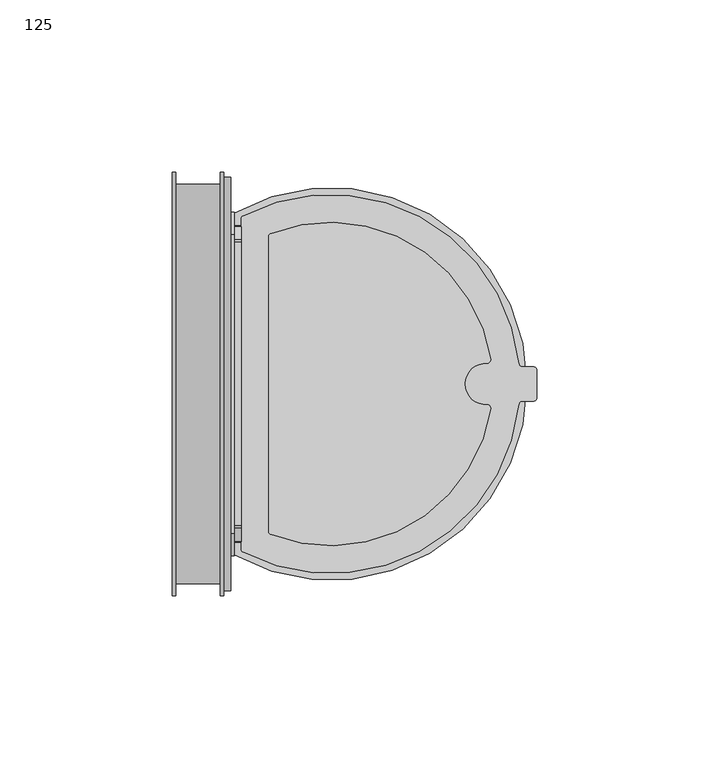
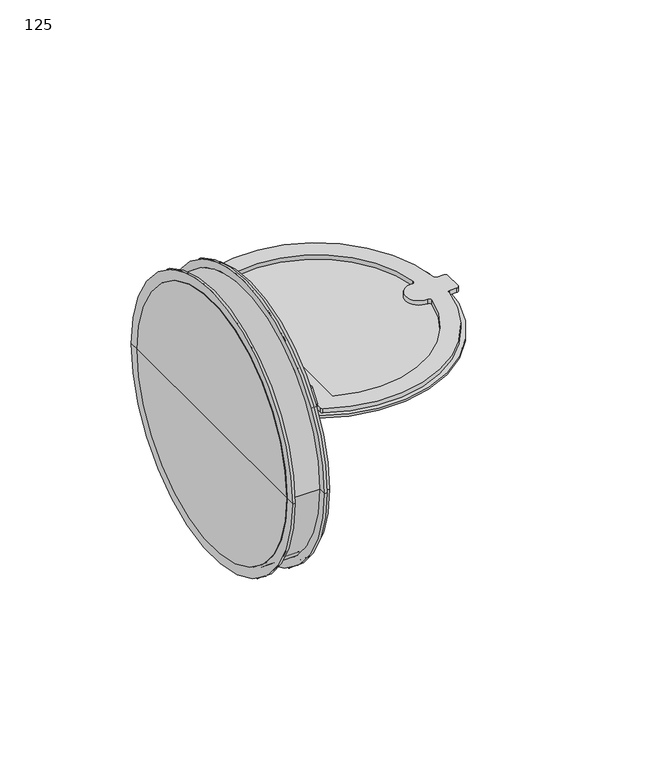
"""IFC4 building model written with IfcOpenShell, lengths in millimetres: damper geometry, VE-Przepustnica_Zwrotna-ParaForma-Harmann-FROGG : 125."""

import ifcopenshell
import ifcopenshell.guid

model = None  # the IFC model being written
_history = None  # IfcOwnerHistory: only IFC2X3 demands one
_inside = {}  # id of a spatial element -> (the spatial element, [elements in it])
_under = {}  # id of a project, library or spatial element -> (it, [spatial elements below it])
_declared = {}  # id of a project -> (the project, [libraries it declares])
_typed = {}  # id of a type object -> (the type object, [elements of that type])
_made_of = {}  # id of a material, layer set ... -> (it, [elements and type objects made of it])


def new_model(schema):
    """Start an empty IFC model of exactly this schema.

    Asked for "IFC4X3", IfcOpenShell would pick the latest addendum, in which some entities
    have other attributes; the version numbers below select the first issue.
    IFC2X3 requires an IfcOwnerHistory on every rooted entity: one is made here for all.
    """
    global model, _history
    if schema == "IFC4X3":
        model = ifcopenshell.file(schema_version=(4, 3, 0, 0))
    else:
        model = ifcopenshell.file(schema=schema)
    _inside.clear()
    _under.clear()
    _declared.clear()
    _typed.clear()
    _made_of.clear()
    _history = None
    if model.schema == "IFC2X3":
        org = make("IfcOrganization", Name="unknown")
        user = make(
            "IfcPersonAndOrganization",
            ThePerson=make("IfcPerson", FamilyName="unknown"),
            TheOrganization=org,
        )
        app = make(
            "IfcApplication",
            ApplicationDeveloper=org,
            Version="unknown",
            ApplicationFullName="unknown",
            ApplicationIdentifier="unknown",
        )
        _history = make(
            "IfcOwnerHistory",
            OwningUser=user,
            OwningApplication=app,
            ChangeAction="ADDED",
            CreationDate=0,
        )
    return model


def make(cls, **values):
    """One entity of the class cls with the attributes given. An attribute that is None is left unset."""
    return model.create_entity(
        cls, **{name: value for name, value in values.items() if value is not None}
    )


def rooted(cls, **values):
    """An entity with a GlobalId (a new one), such as an element, a storey or a relation."""
    return make(cls, GlobalId=ifcopenshell.guid.new(), OwnerHistory=_history, **values)


def si_unit(unit_type, name, prefix=None):
    """IfcSIUnit, for example si_unit("LENGTHUNIT", "METRE", prefix="MILLI")."""
    return make("IfcSIUnit", UnitType=unit_type, Prefix=prefix, Name=name)


def assignment(units):
    """IfcUnitAssignment: the units of a project."""
    return None if units is None else make("IfcUnitAssignment", Units=units)


def point(xyz):
    """IfcCartesianPoint."""
    return None if xyz is None else make("IfcCartesianPoint", Coordinates=xyz)


def direction(xyz):
    """IfcDirection."""
    return None if xyz is None else make("IfcDirection", DirectionRatios=xyz)


def frame(location, z_axis=None, x_axis=None):
    """IfcAxis2Placement3D, a coordinate frame: its origin and axes. An axis left out is left unset."""
    return make(
        "IfcAxis2Placement3D",
        Location=point(location),
        Axis=direction(z_axis),
        RefDirection=direction(x_axis),
    )


def frame_2d(location, x_axis=None):
    """IfcAxis2Placement2D, a coordinate frame in the plane: its origin and x axis."""
    return make(
        "IfcAxis2Placement2D", Location=point(location), RefDirection=direction(x_axis)
    )


def origin():
    """The frame at (0, 0, 0) with its axes left unset."""
    return frame((0.0, 0.0, 0.0))


def origin_2d():
    """The frame at (0, 0) in the plane with its x axis left unset."""
    return frame_2d((0.0, 0.0))


def place(relative_to, where):
    """IfcLocalPlacement: puts the frame where relative to a parent placement (None: the world)."""
    return make(
        "IfcLocalPlacement", PlacementRelTo=relative_to, RelativePlacement=where
    )


def context(
    kind, dimensions, precision=None, world=None, true_north=None, identifier=None
):
    """IfcGeometricRepresentationContext, for example the 3D "Model" context."""
    return make(
        "IfcGeometricRepresentationContext",
        ContextIdentifier=identifier,
        ContextType=kind,
        CoordinateSpaceDimension=dimensions,
        Precision=precision,
        WorldCoordinateSystem=world,
        TrueNorth=true_north,
    )


def project(units=None, contexts=None):
    """IfcProject with its units and contexts."""
    return rooted(
        "IfcProject",
        Name="project",
        RepresentationContexts=contexts,
        UnitsInContext=assignment(units),
    )


def spatial(cls, under=None, at=None, **own):
    """A site, building, storey or space (cls), placed at a placement, below another one or the project."""
    s = rooted(cls, ObjectPlacement=at, **own)
    if under is not None:
        _under.setdefault(under.id(), (under, []))[1].append(s)
    return s


def polyline(points):
    """IfcPolyline through the points."""
    return make("IfcPolyline", Points=[point(p) for p in points])


def circle_curve(where, radius):
    """IfcCircle in the frame where."""
    return make("IfcCircle", Position=where, Radius=radius)


def trimmed(basis, trim1, trim2, sense, master):
    """IfcTrimmedCurve: the piece of a basis curve between two trims."""
    return make(
        "IfcTrimmedCurve",
        BasisCurve=basis,
        Trim1=trim1,
        Trim2=trim2,
        SenseAgreement=sense,
        MasterRepresentation=master,
    )


def segment(curve, same_sense, transition):
    """IfcCompositeCurveSegment."""
    return make(
        "IfcCompositeCurveSegment",
        Transition=transition,
        SameSense=same_sense,
        ParentCurve=curve,
    )


def composite_curve(segments, self_intersect=None):
    """IfcCompositeCurve: segments joined end to end."""
    return make("IfcCompositeCurve", Segments=segments, SelfIntersect=self_intersect)


def outline(outer, holes=None, kind="AREA"):
    """IfcArbitraryClosedProfileDef: a profile drawn as a closed curve; with holes, ...WithVoids."""
    if holes is None:
        return make("IfcArbitraryClosedProfileDef", ProfileType=kind, OuterCurve=outer)
    return make(
        "IfcArbitraryProfileDefWithVoids",
        ProfileType=kind,
        OuterCurve=outer,
        InnerCurves=holes,
    )


def extrude(swept, where, along, depth):
    """IfcExtrudedAreaSolid: the profile swept, set in the frame where, extruded along a direction by depth."""
    return make(
        "IfcExtrudedAreaSolid",
        SweptArea=swept,
        Position=where,
        ExtrudedDirection=direction(along),
        Depth=depth,
    )


def shape(context_of_items, identifier, shape_type, items):
    """IfcShapeRepresentation: the items that make up one representation, for example the "Body"."""
    return make(
        "IfcShapeRepresentation",
        ContextOfItems=context_of_items,
        RepresentationIdentifier=identifier,
        RepresentationType=shape_type,
        Items=items,
    )


def source(mapping_origin, context_of_items, identifier, shape_type, items):
    """IfcRepresentationMap: a shape defined once, which mapped items show again and again."""
    return make(
        "IfcRepresentationMap",
        MappingOrigin=mapping_origin,
        MappedRepresentation=shape(context_of_items, identifier, shape_type, items),
    )


def transform(
    local_origin,
    x_axis=None,
    y_axis=None,
    z_axis=None,
    scale=None,
    scale2=None,
    scale3=None,
    uniform=True,
):
    """IfcCartesianTransformationOperator3D, or its non-uniform kind. x_axis, y_axis, z_axis: its Axis1, 2, 3."""
    if uniform:
        return make(
            "IfcCartesianTransformationOperator3D",
            Axis1=direction(x_axis),
            Axis2=direction(y_axis),
            LocalOrigin=point(local_origin),
            Scale=scale,
            Axis3=direction(z_axis),
        )
    return make(
        "IfcCartesianTransformationOperator3DnonUniform",
        Axis1=direction(x_axis),
        Axis2=direction(y_axis),
        LocalOrigin=point(local_origin),
        Scale=scale,
        Axis3=direction(z_axis),
        Scale2=scale2,
        Scale3=scale3,
    )


def mapped(mapping_source, mapping_target):
    """IfcMappedItem: shows the shape of a source again, moved by a transform."""
    return make(
        "IfcMappedItem", MappingSource=mapping_source, MappingTarget=mapping_target
    )


def made_of(thing, what):
    """Note that an element or type object is made of a material, layer set ...; save() writes the relation."""
    if what is not None:
        _made_of.setdefault(what.id(), (what, []))[1].append(thing)
    return thing


def element(
    cls,
    number,
    at=None,
    inside=None,
    cuts=None,
    type_object=None,
    material=None,
    context=None,
    identifier="Body",
    shape_type=None,
    held_by="IfcProductDefinitionShape",
    body=None,
    shapes=None,
    **own,
):
    """One element of the class cls, such as IfcWall. Its Tag is "e" and its number.

    at: its placement. inside: the storey or other place that contains it. cuts: it is an
    opening in that element (IfcRelVoidsElement). A single representation is given by context,
    identifier, shape_type and body (its items); several are given by shapes. held_by: the class
    of the entity that holds the representations. save() writes the other relations.
    """
    e = rooted(cls, Tag="e%d" % number, ObjectPlacement=at, **own)
    if body is not None:
        shapes = [shape(context, identifier, shape_type, body)]
    if shapes is not None:
        e.Representation = make(held_by, Representations=shapes)
    if inside is not None:
        _inside.setdefault(inside.id(), (inside, []))[1].append(e)
    if cuts is not None:
        rooted(
            "IfcRelVoidsElement", RelatingBuildingElement=cuts, RelatedOpeningElement=e
        )
    if type_object is not None:
        _typed.setdefault(type_object.id(), (type_object, []))[1].append(e)
    return made_of(e, material)


def aggregate(whole, parts):
    """IfcRelAggregates: a whole, such as a stair, and the parts it consists of."""
    return rooted("IfcRelAggregates", RelatingObject=whole, RelatedObjects=parts)


def save(model, path):
    """Write the relations noted so far, then the file.

    IfcRelAggregates (storeys below a building ...), IfcRelContainedInSpatialStructure (elements
    in a storey), IfcRelDefinesByType, IfcRelAssociatesMaterial and IfcRelDeclares: one each for
    every whole, place, type object, material and project.
    """
    for whole, parts in _under.values():
        aggregate(whole, parts)
    for where, things in _inside.values():
        rooted(
            "IfcRelContainedInSpatialStructure",
            RelatedElements=things,
            RelatingStructure=where,
        )
    for kind, things in _typed.values():
        rooted("IfcRelDefinesByType", RelatedObjects=things, RelatingType=kind)
    for what, things in _made_of.values():
        rooted("IfcRelAssociatesMaterial", RelatedObjects=things, RelatingMaterial=what)
    for by, libraries in _declared.values():
        rooted("IfcRelDeclares", RelatingContext=by, RelatedDefinitions=libraries)
    model.write(path)


def plane_surface(at):
    """IfcPlane: the flat surface through the origin of the frame at, square to its z axis."""
    return make("IfcPlane", Position=at)


def cylinder_surface(at, radius):
    """IfcCylindricalSurface: all points at the distance radius from the z axis of the frame at."""
    return make("IfcCylindricalSurface", Position=at, Radius=radius)


def revolved_surface(curve, axis_point, axis_direction):
    """IfcSurfaceOfRevolution: the curve turned about the line through axis_point along axis_direction."""
    return make(
        "IfcSurfaceOfRevolution",
        SweptCurve=make("IfcArbitraryOpenProfileDef", ProfileType="CURVE", Curve=curve),
        AxisPosition=make("IfcAxis1Placement", Location=point(axis_point), Axis=direction(axis_direction)),
    )


def advanced_brep(points, edges, surfaces, faces):
    """IfcAdvancedBrep: a solid bounded by faces that lie on surfaces and meet in shared edges.

    An edge is (start, end): straight between two places in points (the first is 0);
    or (start, end, curve); or (start, end, curve, False) where it runs against its curve.
    A face is (place in surfaces, loops), or (place, loops, False) where it looks against
    its surface's normal. A loop lists edges by number (the first is 1), with a minus sign
    where the edge is run from its end to its start. The first loop is the outer one.
    """
    corners = [point(p) for p in points]
    vertices = [make("IfcVertexPoint", VertexGeometry=c) for c in corners]
    made = []
    for start, end, *more in edges:
        made.append(
            make(
                "IfcEdgeCurve",
                EdgeStart=vertices[start],
                EdgeEnd=vertices[end],
                EdgeGeometry=more[0] if more else make("IfcPolyline", Points=[corners[start], corners[end]]),
                SameSense=more[1] if len(more) > 1 else True,
            )
        )
    hull = []
    for where, loops, *sense in faces:
        bounds = []
        for j, loop in enumerate(loops):
            ring = [make("IfcOrientedEdge", EdgeElement=made[abs(k) - 1], Orientation=k > 0) for k in loop]
            bounds.append(
                make(
                    "IfcFaceOuterBound" if j == 0 else "IfcFaceBound",
                    Bound=make("IfcEdgeLoop", EdgeList=ring),
                    Orientation=True,
                )
            )
        hull.append(make("IfcAdvancedFace", Bounds=bounds, FaceSurface=surfaces[where], SameSense=sense[0] if sense else True))
    return make("IfcAdvancedBrep", Outer=make("IfcClosedShell", CfsFaces=hull))


def damper_125_c1b41ca4(model_context):
    return source(origin(), model_context, "Body", "SolidModel", [
        extrude(outline(composite_curve([segment(trimmed(circle_curve(frame_2d((13.5, 47.8643918)), 1.0), [point((12.5, 47.8643918))], [point((13.037037, 48.7507694))], False, "CARTESIAN"), True, "CONTINUOUS"), segment(trimmed(circle_curve(frame_2d((38.5, 0.0)), 55.0), [point((13.037037, 48.7507694))], [point((93.1834, 5.8928571))], False, "CARTESIAN"), True, "CONTINUOUS"), segment(trimmed(circle_curve(frame_2d((94.1776436, 6.0)), 1.0), [point((93.1834, 5.8928571))], [point((94.1776436, 5.0))], True, "CARTESIAN"), True, "CONTINUOUS"), segment(polyline([(94.1776436, 5.0), (97.3642506, 5.0)]), True, "CONTINUOUS"), segment(trimmed(circle_curve(frame_2d((97.3642506, 4.0)), 1.0), [point((97.3642506, 5.0))], [point((98.3619498, 4.0677966))], False, "CARTESIAN"), True, "CONTINUOUS"), segment(trimmed(circle_curve(frame_2d((38.5, 0.0)), 60.0), [point((98.3619498, 4.0677966))], [point((98.3619498, -4.0677966))], False, "CARTESIAN"), True, "CONTINUOUS"), segment(trimmed(circle_curve(frame_2d((97.3642506, -4.0)), 1.0), [point((98.3619498, -4.0677966))], [point((97.3642506, -5.0))], False, "CARTESIAN"), True, "CONTINUOUS"), segment(polyline([(97.3642506, -5.0), (94.1776436, -5.0)]), True, "CONTINUOUS"), segment(trimmed(circle_curve(frame_2d((94.1776436, -6.0)), 1.0), [point((94.1776436, -5.0))], [point((93.1834, -5.8928571))], True, "CARTESIAN"), True, "CONTINUOUS"), segment(trimmed(circle_curve(frame_2d((38.5, 0.0)), 55.0), [point((93.1834, -5.8928571))], [point((13.037037, -48.7507694))], False, "CARTESIAN"), True, "CONTINUOUS"), segment(trimmed(circle_curve(frame_2d((13.5, -47.8643918)), 1.0), [point((13.037037, -48.7507694))], [point((12.5, -47.8643918))], False, "CARTESIAN"), True, "CONTINUOUS"), segment(polyline([(12.5, -47.8643918), (12.5, 47.8643918)]), True, "CONTINUOUS")], self_intersect=False), holes=[composite_curve([segment(polyline([(20.5, 42.7434205), (20.5, -42.7434205)]), True, "CONTINUOUS"), segment(trimmed(circle_curve(frame_2d((21.5, -42.7434205)), 1.0), [point((20.5, -42.7434205))], [point((21.1304348, -43.6726253))], True, "CARTESIAN"), True, "CONTINUOUS"), segment(trimmed(circle_curve(frame_2d((38.5, 0.0)), 47.0), [point((21.1304348, -43.6726253))], [point((84.9550725, -7.1362625))], True, "CARTESIAN"), True, "CONTINUOUS"), segment(trimmed(circle_curve(frame_2d((83.9666667, -6.9844271)), 1.0), [point((84.9550725, -7.1362625))], [point((83.9, -5.9866518))], True, "CARTESIAN"), True, "CONTINUOUS"), segment(trimmed(circle_curve(frame_2d((83.5, 0.0)), 6.0), [point((83.9, -5.9866518))], [point((83.9, 5.9866518))], False, "CARTESIAN"), True, "CONTINUOUS"), segment(trimmed(circle_curve(frame_2d((83.9666667, 6.9844271)), 1.0), [point((83.9, 5.9866518))], [point((84.9550725, 7.1362625))], True, "CARTESIAN"), True, "CONTINUOUS"), segment(trimmed(circle_curve(frame_2d((38.5, 0.0)), 47.0), [point((84.9550725, 7.1362625))], [point((21.1304348, 43.6726253))], True, "CARTESIAN"), True, "CONTINUOUS"), segment(trimmed(circle_curve(frame_2d((21.5, 42.7434205)), 1.0), [point((21.1304348, 43.6726253))], [point((20.5, 42.7434205))], True, "CARTESIAN"), True, "CONTINUOUS")], self_intersect=False)]), frame((0.0, 0.0, 27.5), z_axis=(0.0, 0.0, 1.0), x_axis=(1.0, 0.0, 0.0)), (0.0, 0.0, 1.0), 2.0),
        extrude(outline(composite_curve([segment(polyline([(10.5, -49.6487663), (10.5, 49.6487663)]), True, "CONTINUOUS"), segment(trimmed(circle_curve(frame_2d((38.5, 0.0)), 57.0), [point((10.5, 49.6487663))], [point((10.5, -49.6487663))], False, "CARTESIAN"), True, "CONTINUOUS")], self_intersect=False)), frame((0.0, 0.0, 26.5), z_axis=(0.0, 0.0, 1.0), x_axis=(1.0, 0.0, 0.0)), (0.0, 0.0, 1.0), 1.0),
        extrude(outline(composite_curve([segment(trimmed(circle_curve(frame_2d((0.0, -0.5)), 55.0), [point((-45.7313681, 30.0555556))], [point((-41.8832847, 35.1481481))], False, "CARTESIAN"), True, "CONTINUOUS"), segment(trimmed(circle_curve(frame_2d((-41.1217704, 34.5)), 1.0), [point((-41.8832847, 35.1481481))], [point((-41.1217704, 35.5))], False, "CARTESIAN"), True, "CONTINUOUS"), segment(polyline([(-41.1217704, 35.5), (41.1217704, 35.5)]), True, "CONTINUOUS"), segment(trimmed(circle_curve(frame_2d((41.1217704, 34.5)), 1.0), [point((41.1217704, 35.5))], [point((41.8832847, 35.1481481))], False, "CARTESIAN"), True, "CONTINUOUS"), segment(trimmed(circle_curve(frame_2d((0.0, -0.5)), 55.0), [point((41.8832847, 35.1481481))], [point((45.7313681, 30.0555556))], False, "CARTESIAN"), True, "CONTINUOUS"), segment(trimmed(circle_curve(frame_2d((44.8998886, 29.5)), 1.0), [point((45.7313681, 30.0555556))], [point((44.8998886, 28.5))], False, "CARTESIAN"), True, "CONTINUOUS"), segment(polyline([(44.8998886, 28.5), (-44.8998886, 28.5)]), True, "CONTINUOUS"), segment(trimmed(circle_curve(frame_2d((-44.8998886, 29.5)), 1.0), [point((-44.8998886, 28.5))], [point((-45.7313681, 30.0555556))], False, "CARTESIAN"), True, "CONTINUOUS")], self_intersect=False)), frame((10.5, 0.0, 0.0), z_axis=(1.0, 0.0, 0.0), x_axis=(0.0, 1.0, 0.0)), (0.0, 0.0, 1.0), 2.0),
        extrude(outline(composite_curve([segment(polyline([(-43.3589668, 37.0), (43.3589668, 37.0)]), True, "CONTINUOUS"), segment(trimmed(circle_curve(origin_2d(), 57.0), [point((43.3589668, 37.0))], [point((49.9274474, 27.5))], False, "CARTESIAN"), True, "CONTINUOUS"), segment(polyline([(49.9274474, 27.5), (-49.9274474, 27.5)]), True, "CONTINUOUS"), segment(trimmed(circle_curve(origin_2d(), 57.0), [point((-49.9274474, 27.5))], [point((-43.3589668, 37.0))], False, "CARTESIAN"), True, "CONTINUOUS")], self_intersect=False)), frame((9.5, 0.0, 0.0), z_axis=(1.0, 0.0, 0.0), x_axis=(0.0, 1.0, 0.0)), (0.0, 0.0, 1.0), 1.0),
        advanced_brep(
        [(9.5, -60.0, 0.0), (9.5, 60.0, 0.0), (9.5, 0.0, 0.0), (7.5, -60.0, 0.0), (7.5, 60.0, 0.0), (7.5, -57.0, 0.0), (7.5, 57.0, 0.0), (-7.5, -57.0, 0.0), (-7.5, 57.0, 0.0), (-7.5, 0.0, 0.0)],
        [
            (0, 1, circle_curve(frame((9.5, 0.0, 0.0), z_axis=(1.0, 0.0, 0.0), x_axis=(0.0, 0.9999999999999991, 0.0)), 60.0)),
            (1, 2),
            (2, 0),
            (1, 0, circle_curve(frame((9.5, 0.0, 0.0), z_axis=(1.0, 0.0, 0.0), x_axis=(0.0, 0.9999999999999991, 0.0)), 60.0)),
            (3, 4, circle_curve(frame((7.5, 0.0, 0.0), z_axis=(1.0, 0.0, 0.0), x_axis=(0.0, 0.9999999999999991, 0.0)), 60.0)),
            (4, 1),
            (0, 3),
            (4, 3, circle_curve(frame((7.5, 0.0, 0.0), z_axis=(1.0, 0.0, 0.0), x_axis=(0.0, 0.9999999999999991, 0.0)), 60.0)),
            (5, 6, circle_curve(frame((7.5, 0.0, 0.0), z_axis=(1.0, 0.0, 0.0), x_axis=(0.0, 0.9999999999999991, 0.0)), 57.0)),
            (6, 4),
            (3, 5),
            (6, 5, circle_curve(frame((7.5, 0.0, 0.0), z_axis=(1.0, 0.0, 0.0), x_axis=(0.0, 0.9999999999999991, 0.0)), 57.0)),
            (7, 8, circle_curve(frame((-7.5, 0.0, 0.0), z_axis=(1.0, 0.0, 0.0), x_axis=(0.0, 0.9999999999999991, 0.0)), 57.0)),
            (8, 6),
            (5, 7),
            (8, 7, circle_curve(frame((-7.5, 0.0, 0.0), z_axis=(1.0, 0.0, 0.0), x_axis=(0.0, 0.9999999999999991, 0.0)), 57.0)),
            (9, 8),
            (7, 9),
        ],
        [
            plane_surface(frame((9.5, 0.0, 0.0), z_axis=(1.0, 0.0, 0.0), x_axis=(0.0, 1.0, 0.0))),
            cylinder_surface(frame((-7.5, 0.0, 0.0), z_axis=(-0.9999999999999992, 0.0, 0.0), x_axis=(0.0, 0.9999999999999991, 0.0)), 60.0),
            plane_surface(frame((7.5, 0.0, 0.0), z_axis=(-1.0, 0.0, 0.0), x_axis=(0.0, 1.0, 0.0))),
            cylinder_surface(frame((-7.5, 0.0, 0.0), z_axis=(-0.9999999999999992, 0.0, 0.0), x_axis=(0.0, 0.9999999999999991, 0.0)), 57.0),
            plane_surface(frame((-7.5, 0.0, 0.0), z_axis=(-1.0, 0.0, 0.0), x_axis=(0.0, 1.0, 0.0))),
        ],
        [
            (0, [[1, 2, 3]]),
            (0, [[4, -3, -2]]),
            (1, [[5, 6, -1, 7]]),
            (1, [[8, -7, -4, -6]]),
            (2, [[9, 10, -5, 11]]),
            (2, [[12, -11, -8, -10]]),
            (3, [[13, 14, -9, 15]]),
            (3, [[16, -15, -12, -14]]),
            (4, [[17, -13, 18]]),
            (4, [[-18, -16, -17]]),
        ],
    ),
        advanced_brep(
        [(7.5, -61.5, 0.0), (7.5, 61.5, 0.0), (7.5, 57.0, 0.0), (7.5, -57.0, 0.0), (6.5, -61.5, 0.0), (6.5, 61.5, 0.0), (6.5, -58.0, 0.0), (6.5, 58.0, 0.0), (-6.5, -58.0, 0.0), (-6.5, 58.0, 0.0), (-6.5, -61.5, 0.0), (-6.5, 61.5, 0.0), (-7.5, -61.5, 0.0), (-7.5, 61.5, 0.0), (-7.5, -57.0, 0.0), (-7.5, 57.0, 0.0)],
        [
            (0, 1, circle_curve(frame((7.5, 0.0, 0.0), z_axis=(1.0, 0.0, 0.0), x_axis=(0.0, 0.9999999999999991, 0.0)), 61.5)),
            (1, 2),
            (2, 3, circle_curve(frame((7.5, 0.0, 0.0), z_axis=(-1.0, 0.0, 0.0), x_axis=(0.0, 0.9999999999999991, 0.0)), 57.0)),
            (3, 0),
            (1, 0, circle_curve(frame((7.5, 0.0, 0.0), z_axis=(1.0, 0.0, 0.0), x_axis=(0.0, 0.9999999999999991, 0.0)), 61.5)),
            (3, 2, circle_curve(frame((7.5, 0.0, 0.0), z_axis=(-1.0, 0.0, 0.0), x_axis=(0.0, 0.9999999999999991, 0.0)), 57.0)),
            (4, 5, circle_curve(frame((6.5, 0.0, 0.0), z_axis=(1.0, 0.0, 0.0), x_axis=(0.0, 0.9999999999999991, 0.0)), 61.5)),
            (5, 1),
            (0, 4),
            (5, 4, circle_curve(frame((6.5, 0.0, 0.0), z_axis=(1.0, 0.0, 0.0), x_axis=(0.0, 0.9999999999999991, 0.0)), 61.5)),
            (6, 7, circle_curve(frame((6.5, 0.0, 0.0), z_axis=(1.0, 0.0, 0.0), x_axis=(0.0, 0.9999999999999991, 0.0)), 58.0)),
            (7, 5),
            (4, 6),
            (7, 6, circle_curve(frame((6.5, 0.0, 0.0), z_axis=(1.0, 0.0, 0.0), x_axis=(0.0, 0.9999999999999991, 0.0)), 58.0)),
            (8, 9, circle_curve(frame((-6.5, 0.0, 0.0), z_axis=(1.0, 0.0, 0.0), x_axis=(0.0, 0.9999999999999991, 0.0)), 58.0)),
            (9, 7),
            (6, 8),
            (9, 8, circle_curve(frame((-6.5, 0.0, 0.0), z_axis=(1.0, 0.0, 0.0), x_axis=(0.0, 0.9999999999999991, 0.0)), 58.0)),
            (10, 11, circle_curve(frame((-6.5, 0.0, 0.0), z_axis=(1.0, 0.0, 0.0), x_axis=(0.0, 0.9999999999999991, 0.0)), 61.5)),
            (11, 9),
            (8, 10),
            (11, 10, circle_curve(frame((-6.5, 0.0, 0.0), z_axis=(1.0, 0.0, 0.0), x_axis=(0.0, 0.9999999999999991, 0.0)), 61.5)),
            (12, 13, circle_curve(frame((-7.5, 0.0, 0.0), z_axis=(1.0, 0.0, 0.0), x_axis=(0.0, 0.9999999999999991, 0.0)), 61.5)),
            (13, 11),
            (10, 12),
            (13, 12, circle_curve(frame((-7.5, 0.0, 0.0), z_axis=(1.0, 0.0, 0.0), x_axis=(0.0, 0.9999999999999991, 0.0)), 61.5)),
            (14, 15, circle_curve(frame((-7.5, 0.0, 0.0), z_axis=(1.0, 0.0, 0.0), x_axis=(0.0, 0.9999999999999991, 0.0)), 57.0)),
            (15, 13),
            (12, 14),
            (15, 14, circle_curve(frame((-7.5, 0.0, 0.0), z_axis=(1.0, 0.0, 0.0), x_axis=(0.0, 0.9999999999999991, 0.0)), 57.0)),
            (2, 15),
            (14, 3),
        ],
        [
            plane_surface(frame((7.5, 0.0, 0.0), z_axis=(1.0, 0.0, 0.0), x_axis=(0.0, 1.0, 0.0))),
            cylinder_surface(frame((-7.5, 0.0, 0.0), z_axis=(-0.9999999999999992, 0.0, 0.0), x_axis=(0.0, 0.9999999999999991, 0.0)), 61.5),
            plane_surface(frame((6.5, 0.0, 0.0), z_axis=(-1.0, 0.0, 0.0), x_axis=(0.0, 1.0, 0.0))),
            cylinder_surface(frame((-7.5, 0.0, 0.0), z_axis=(-0.9999999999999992, 0.0, 0.0), x_axis=(0.0, 0.9999999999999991, 0.0)), 58.0),
            plane_surface(frame((-6.5, 0.0, 0.0), z_axis=(1.0, 0.0, 0.0), x_axis=(0.0, 1.0, 0.0))),
            plane_surface(frame((-7.5, 0.0, 0.0), z_axis=(-1.0, 0.0, 0.0), x_axis=(0.0, 1.0, 0.0))),
            revolved_surface(polyline([(-7.5, 56.99999999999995, 0.0), (7.499999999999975, 56.99999999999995, 0.0)]), (-7.5, 0.0, 0.0), (-0.9999999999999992, 0.0, 0.0)),
        ],
        [
            (0, [[1, 2, 3, 4]]),
            (0, [[5, -4, 6, -2]]),
            (1, [[7, 8, -1, 9]]),
            (1, [[10, -9, -5, -8]]),
            (2, [[11, 12, -7, 13]]),
            (2, [[14, -13, -10, -12]]),
            (3, [[15, 16, -11, 17]]),
            (3, [[18, -17, -14, -16]]),
            (4, [[19, 20, -15, 21]]),
            (4, [[22, -21, -18, -20]]),
            (1, [[23, 24, -19, 25]]),
            (1, [[26, -25, -22, -24]]),
            (5, [[27, 28, -23, 29]]),
            (5, [[30, -29, -26, -28]]),
            (6, [[-3, 31, -27, 32]]),
            (6, [[-6, -32, -30, -31]]),
        ],
    ),
    ])


if __name__ == "__main__":
    model = new_model("IFC4")
    model_context = context("Model", 3, world=origin())
    ifc_project = project(units=[si_unit("LENGTHUNIT", "METRE", prefix="MILLI")], contexts=[model_context])
    site = spatial("IfcSite", under=ifc_project)
    building = spatial("IfcBuilding", under=site)
    placement = place(None, origin())
    damper_125_shape = damper_125_c1b41ca4(model_context)
    element("IfcDamper", 1, ObjectType="VE-Przepustnica_Zwrotna-ParaForma-Harmann-FROGG : 125", at=placement, inside=building, context=model_context, shape_type="MappedRepresentation", body=[
        mapped(damper_125_shape, transform((0.0, 0.0, 0.0), x_axis=(1.0, 0.0, 0.0), y_axis=(0.0, 1.0, 0.0), z_axis=(0.0, 0.0, 1.0))),
    ])
    save(model, "model.ifc")
